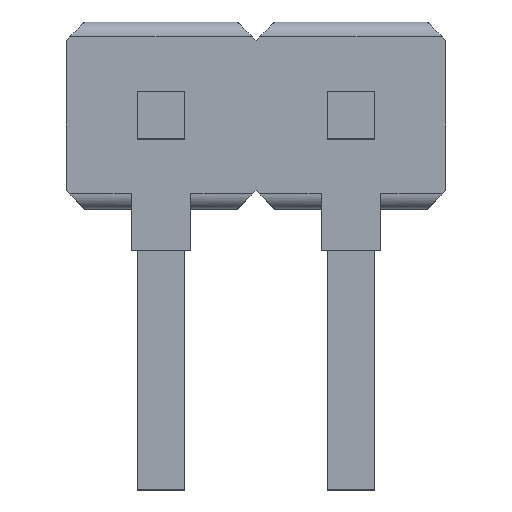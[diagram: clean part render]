
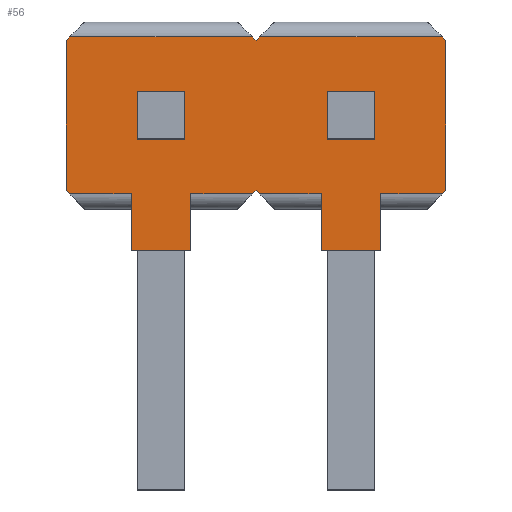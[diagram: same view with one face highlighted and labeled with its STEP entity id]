
A CAD part, top view. The second image highlights one B-rep face of the part: STEP entity #56.
In plain terms, the highlighted planar face has unit normal (0, 0, 1).
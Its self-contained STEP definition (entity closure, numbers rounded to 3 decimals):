
#56=ADVANCED_FACE('',(#129,#130,#131),#132,.T.);
#129=FACE_OUTER_BOUND('',#257,.T.);
#130=FACE_BOUND('',#258,.T.);
#131=FACE_BOUND('',#259,.T.);
#132=PLANE('',#260);
#257=EDGE_LOOP('',(#448,#449,#450,#451,#452,#453,#454,#455,#456,#457,#458,#459,#460,#461,#462,#463,#464,#465,#466,#467,#468,#469));
#258=EDGE_LOOP('',(#470,#471,#472,#473));
#259=EDGE_LOOP('',(#474,#475,#476,#477));
#260=AXIS2_PLACEMENT_3D('',#478,#479,#480);
#448=ORIENTED_EDGE('',*,*,#915,.F.);
#449=ORIENTED_EDGE('',*,*,#919,.T.);
#450=ORIENTED_EDGE('',*,*,#917,.F.);
#451=ORIENTED_EDGE('',*,*,#911,.F.);
#452=ORIENTED_EDGE('',*,*,#895,.T.);
#453=ORIENTED_EDGE('',*,*,#893,.T.);
#454=ORIENTED_EDGE('',*,*,#921,.F.);
#455=ORIENTED_EDGE('',*,*,#922,.T.);
#456=ORIENTED_EDGE('',*,*,#923,.T.);
#457=ORIENTED_EDGE('',*,*,#924,.T.);
#458=ORIENTED_EDGE('',*,*,#925,.T.);
#459=ORIENTED_EDGE('',*,*,#926,.T.);
#460=ORIENTED_EDGE('',*,*,#927,.F.);
#461=ORIENTED_EDGE('',*,*,#928,.F.);
#462=ORIENTED_EDGE('',*,*,#929,.T.);
#463=ORIENTED_EDGE('',*,*,#930,.T.);
#464=ORIENTED_EDGE('',*,*,#931,.T.);
#465=ORIENTED_EDGE('',*,*,#932,.T.);
#466=ORIENTED_EDGE('',*,*,#933,.T.);
#467=ORIENTED_EDGE('',*,*,#934,.F.);
#468=ORIENTED_EDGE('',*,*,#935,.F.);
#469=ORIENTED_EDGE('',*,*,#906,.F.);
#470=ORIENTED_EDGE('',*,*,#936,.F.);
#471=ORIENTED_EDGE('',*,*,#937,.F.);
#472=ORIENTED_EDGE('',*,*,#938,.T.);
#473=ORIENTED_EDGE('',*,*,#939,.T.);
#474=ORIENTED_EDGE('',*,*,#940,.F.);
#475=ORIENTED_EDGE('',*,*,#941,.F.);
#476=ORIENTED_EDGE('',*,*,#942,.T.);
#477=ORIENTED_EDGE('',*,*,#943,.T.);
#478=CARTESIAN_POINT('',(-2.54,1.05,0.0));
#479=DIRECTION('',(0.0,0.0,1.0));
#480=DIRECTION('',(1.0,-0.0,0.0));
#893=EDGE_CURVE('',#1068,#1066,#1069,.T.);
#895=EDGE_CURVE('',#1071,#1068,#1072,.T.);
#906=EDGE_CURVE('',#1091,#1092,#1093,.T.);
#911=EDGE_CURVE('',#1071,#1100,#1101,.T.);
#915=EDGE_CURVE('',#1105,#1091,#1107,.T.);
#917=EDGE_CURVE('',#1100,#1109,#1110,.T.);
#919=EDGE_CURVE('',#1105,#1109,#1112,.T.);
#921=EDGE_CURVE('',#1114,#1066,#1115,.T.);
#922=EDGE_CURVE('',#1114,#1116,#1117,.T.);
#923=EDGE_CURVE('',#1116,#1118,#1119,.T.);
#924=EDGE_CURVE('',#1118,#1120,#1121,.T.);
#925=EDGE_CURVE('',#1120,#1122,#1123,.T.);
#926=EDGE_CURVE('',#1122,#1124,#1125,.T.);
#927=EDGE_CURVE('',#1126,#1124,#1127,.T.);
#928=EDGE_CURVE('',#1128,#1126,#1129,.T.);
#929=EDGE_CURVE('',#1128,#1130,#1131,.T.);
#930=EDGE_CURVE('',#1130,#1132,#1133,.T.);
#931=EDGE_CURVE('',#1132,#1134,#1135,.T.);
#932=EDGE_CURVE('',#1134,#1136,#1137,.T.);
#933=EDGE_CURVE('',#1136,#1138,#1139,.T.);
#934=EDGE_CURVE('',#1140,#1138,#1141,.T.);
#935=EDGE_CURVE('',#1092,#1140,#1142,.T.);
#936=EDGE_CURVE('',#1143,#1144,#1145,.T.);
#937=EDGE_CURVE('',#1146,#1143,#1147,.T.);
#938=EDGE_CURVE('',#1146,#1148,#1149,.T.);
#939=EDGE_CURVE('',#1148,#1144,#1150,.T.);
#940=EDGE_CURVE('',#1151,#1152,#1153,.T.);
#941=EDGE_CURVE('',#1154,#1151,#1155,.T.);
#942=EDGE_CURVE('',#1154,#1156,#1157,.T.);
#943=EDGE_CURVE('',#1156,#1152,#1158,.T.);
#1066=VERTEX_POINT('',#1351);
#1068=VERTEX_POINT('',#1354);
#1069=LINE('',#1355,#1356);
#1071=VERTEX_POINT('',#1359);
#1072=LINE('',#1360,#1361);
#1091=VERTEX_POINT('',#1396);
#1092=VERTEX_POINT('',#1397);
#1093=LINE('',#1398,#1399);
#1100=VERTEX_POINT('',#1416);
#1101=LINE('',#1417,#1418);
#1105=VERTEX_POINT('',#1430);
#1107=LINE('',#1439,#1440);
#1109=VERTEX_POINT('',#1443);
#1110=LINE('',#1444,#1445);
#1112=LINE('',#1448,#1449);
#1114=VERTEX_POINT('',#1452);
#1115=LINE('',#1453,#1454);
#1116=VERTEX_POINT('',#1455);
#1117=LINE('',#1456,#1457);
#1118=VERTEX_POINT('',#1458);
#1119=LINE('',#1459,#1460);
#1120=VERTEX_POINT('',#1461);
#1121=LINE('',#1462,#1463);
#1122=VERTEX_POINT('',#1464);
#1123=LINE('',#1465,#1466);
#1124=VERTEX_POINT('',#1467);
#1125=LINE('',#1468,#1469);
#1126=VERTEX_POINT('',#1470);
#1127=LINE('',#1471,#1472);
#1128=VERTEX_POINT('',#1473);
#1129=LINE('',#1474,#1475);
#1130=VERTEX_POINT('',#1476);
#1131=LINE('',#1477,#1478);
#1132=VERTEX_POINT('',#1479);
#1133=LINE('',#1480,#1481);
#1134=VERTEX_POINT('',#1482);
#1135=LINE('',#1483,#1484);
#1136=VERTEX_POINT('',#1485);
#1137=LINE('',#1486,#1487);
#1138=VERTEX_POINT('',#1488);
#1139=LINE('',#1489,#1490);
#1140=VERTEX_POINT('',#1491);
#1141=LINE('',#1492,#1493);
#1142=LINE('',#1494,#1495);
#1143=VERTEX_POINT('',#1496);
#1144=VERTEX_POINT('',#1497);
#1145=LINE('',#1498,#1499);
#1146=VERTEX_POINT('',#1500);
#1147=LINE('',#1501,#1502);
#1148=VERTEX_POINT('',#1503);
#1149=LINE('',#1504,#1505);
#1150=LINE('',#1506,#1507);
#1151=VERTEX_POINT('',#1508);
#1152=VERTEX_POINT('',#1509);
#1153=LINE('',#1510,#1511);
#1154=VERTEX_POINT('',#1512);
#1155=LINE('',#1513,#1514);
#1156=VERTEX_POINT('',#1515);
#1157=LINE('',#1516,#1517);
#1158=LINE('',#1518,#1519);
#1351=CARTESIAN_POINT('',(-2.54,-1.0,0.0));
#1354=CARTESIAN_POINT('',(-2.54,1.0,0.0));
#1355=CARTESIAN_POINT('',(-2.54,1.0,0.0));
#1356=VECTOR('',#1825,2.0);
#1359=CARTESIAN_POINT('',(-2.49,1.05,0.0));
#1360=CARTESIAN_POINT('',(-2.49,1.05,0.0));
#1361=VECTOR('',#1827,0.071);
#1396=CARTESIAN_POINT('',(2.49,1.05,0.0));
#1397=CARTESIAN_POINT('',(2.54,1.0,0.0));
#1398=CARTESIAN_POINT('',(2.49,1.05,0.0));
#1399=VECTOR('',#1837,0.071);
#1416=CARTESIAN_POINT('',(-0.05,1.05,0.0));
#1417=CARTESIAN_POINT('',(-2.49,1.05,0.0));
#1418=VECTOR('',#1841,2.44);
#1430=CARTESIAN_POINT('',(0.05,1.05,0.0));
#1439=CARTESIAN_POINT('',(0.05,1.05,0.0));
#1440=VECTOR('',#1843,2.44);
#1443=CARTESIAN_POINT('',(0.0,1.0,0.0));
#1444=CARTESIAN_POINT('',(-0.05,1.05,0.0));
#1445=VECTOR('',#1845,0.071);
#1448=CARTESIAN_POINT('',(0.05,1.05,0.0));
#1449=VECTOR('',#1847,0.071);
#1452=CARTESIAN_POINT('',(-2.49,-1.05,0.0));
#1453=CARTESIAN_POINT('',(-2.49,-1.05,0.0));
#1454=VECTOR('',#1849,0.071);
#1455=CARTESIAN_POINT('',(-1.67,-1.05,0.0));
#1456=CARTESIAN_POINT('',(-2.49,-1.05,0.0));
#1457=VECTOR('',#1850,0.82);
#1458=CARTESIAN_POINT('',(-1.67,-1.8,0.0));
#1459=CARTESIAN_POINT('',(-1.67,-1.05,0.0));
#1460=VECTOR('',#1851,0.75);
#1461=CARTESIAN_POINT('',(-0.87,-1.8,0.0));
#1462=CARTESIAN_POINT('',(-1.67,-1.8,0.0));
#1463=VECTOR('',#1852,0.8);
#1464=CARTESIAN_POINT('',(-0.87,-1.05,0.0));
#1465=CARTESIAN_POINT('',(-0.87,-1.8,0.0));
#1466=VECTOR('',#1853,0.75);
#1467=CARTESIAN_POINT('',(-0.05,-1.05,0.0));
#1468=CARTESIAN_POINT('',(-0.87,-1.05,0.0));
#1469=VECTOR('',#1854,0.82);
#1470=CARTESIAN_POINT('',(0.0,-1.0,0.0));
#1471=CARTESIAN_POINT('',(0.0,-1.0,0.0));
#1472=VECTOR('',#1855,0.071);
#1473=CARTESIAN_POINT('',(0.05,-1.05,0.0));
#1474=CARTESIAN_POINT('',(0.05,-1.05,0.0));
#1475=VECTOR('',#1856,0.071);
#1476=CARTESIAN_POINT('',(0.87,-1.05,0.0));
#1477=CARTESIAN_POINT('',(0.05,-1.05,0.0));
#1478=VECTOR('',#1857,0.82);
#1479=CARTESIAN_POINT('',(0.87,-1.8,0.0));
#1480=CARTESIAN_POINT('',(0.87,-1.05,0.0));
#1481=VECTOR('',#1858,0.75);
#1482=CARTESIAN_POINT('',(1.67,-1.8,0.0));
#1483=CARTESIAN_POINT('',(0.87,-1.8,0.0));
#1484=VECTOR('',#1859,0.8);
#1485=CARTESIAN_POINT('',(1.67,-1.05,0.0));
#1486=CARTESIAN_POINT('',(1.67,-1.8,0.0));
#1487=VECTOR('',#1860,0.75);
#1488=CARTESIAN_POINT('',(2.49,-1.05,0.0));
#1489=CARTESIAN_POINT('',(1.67,-1.05,0.0));
#1490=VECTOR('',#1861,0.82);
#1491=CARTESIAN_POINT('',(2.54,-1.0,0.0));
#1492=CARTESIAN_POINT('',(2.54,-1.0,0.0));
#1493=VECTOR('',#1862,0.071);
#1494=CARTESIAN_POINT('',(2.54,1.0,0.0));
#1495=VECTOR('',#1863,2.0);
#1496=CARTESIAN_POINT('',(-0.955,0.315,0.0));
#1497=CARTESIAN_POINT('',(-1.585,0.315,0.0));
#1498=CARTESIAN_POINT('',(-0.955,0.315,0.0));
#1499=VECTOR('',#1864,0.63);
#1500=CARTESIAN_POINT('',(-0.955,-0.315,0.0));
#1501=CARTESIAN_POINT('',(-0.955,-0.315,0.0));
#1502=VECTOR('',#1865,0.63);
#1503=CARTESIAN_POINT('',(-1.585,-0.315,0.0));
#1504=CARTESIAN_POINT('',(-0.955,-0.315,0.0));
#1505=VECTOR('',#1866,0.63);
#1506=CARTESIAN_POINT('',(-1.585,-0.315,0.0));
#1507=VECTOR('',#1867,0.63);
#1508=CARTESIAN_POINT('',(1.585,0.315,0.0));
#1509=CARTESIAN_POINT('',(0.955,0.315,0.0));
#1510=CARTESIAN_POINT('',(1.585,0.315,0.0));
#1511=VECTOR('',#1868,0.63);
#1512=CARTESIAN_POINT('',(1.585,-0.315,0.0));
#1513=CARTESIAN_POINT('',(1.585,-0.315,0.0));
#1514=VECTOR('',#1869,0.63);
#1515=CARTESIAN_POINT('',(0.955,-0.315,0.0));
#1516=CARTESIAN_POINT('',(1.585,-0.315,0.0));
#1517=VECTOR('',#1870,0.63);
#1518=CARTESIAN_POINT('',(0.955,-0.315,0.0));
#1519=VECTOR('',#1871,0.63);
#1825=DIRECTION('',(0.0,-1.0,0.0));
#1827=DIRECTION('',(-0.707,-0.707,0.0));
#1837=DIRECTION('',(0.707,-0.707,0.0));
#1841=DIRECTION('',(1.0,0.0,0.0));
#1843=DIRECTION('',(1.0,0.0,0.0));
#1845=DIRECTION('',(0.707,-0.707,0.0));
#1847=DIRECTION('',(-0.707,-0.707,0.0));
#1849=DIRECTION('',(-0.707,0.707,0.0));
#1850=DIRECTION('',(1.0,0.0,0.0));
#1851=DIRECTION('',(0.0,-1.0,0.0));
#1852=DIRECTION('',(1.0,0.0,0.0));
#1853=DIRECTION('',(0.0,1.0,0.0));
#1854=DIRECTION('',(1.0,0.0,0.0));
#1855=DIRECTION('',(-0.707,-0.707,0.0));
#1856=DIRECTION('',(-0.707,0.707,0.0));
#1857=DIRECTION('',(1.0,0.0,0.0));
#1858=DIRECTION('',(0.0,-1.0,0.0));
#1859=DIRECTION('',(1.0,0.0,0.0));
#1860=DIRECTION('',(0.0,1.0,0.0));
#1861=DIRECTION('',(1.0,0.0,0.0));
#1862=DIRECTION('',(-0.707,-0.707,0.0));
#1863=DIRECTION('',(0.0,-1.0,0.0));
#1864=DIRECTION('',(-1.0,0.0,0.0));
#1865=DIRECTION('',(0.0,1.0,0.0));
#1866=DIRECTION('',(-1.0,0.0,0.0));
#1867=DIRECTION('',(0.0,1.0,0.0));
#1868=DIRECTION('',(-1.0,0.0,0.0));
#1869=DIRECTION('',(0.0,1.0,0.0));
#1870=DIRECTION('',(-1.0,0.0,0.0));
#1871=DIRECTION('',(0.0,1.0,0.0));
